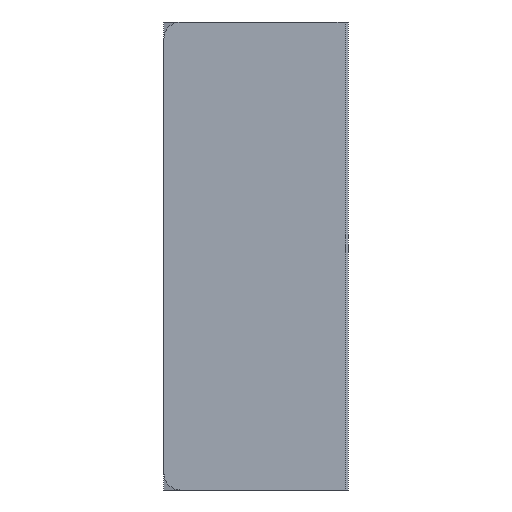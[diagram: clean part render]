
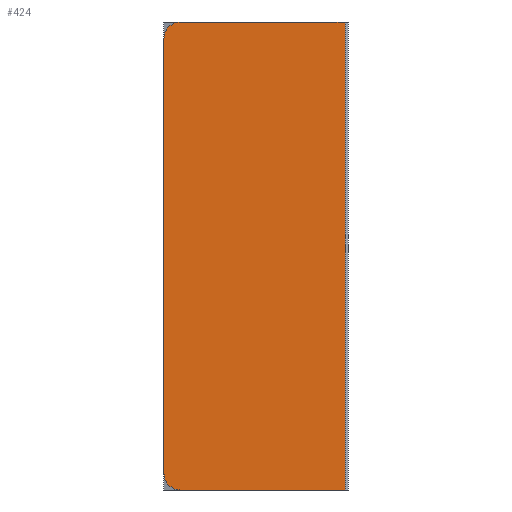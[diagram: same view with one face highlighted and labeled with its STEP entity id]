
A CAD part, front view. The second image highlights one B-rep face of the part: STEP entity #424.
In plain terms, the highlighted planar face has unit normal (0, -1, 0).
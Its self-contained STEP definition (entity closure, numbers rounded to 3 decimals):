
#8 = LINE ( 'NONE', #1540, #980 ) ;
#10 = VERTEX_POINT ( 'NONE', #602 ) ;
#33 = CARTESIAN_POINT ( 'NONE',  ( -29., 0., -71. ) ) ;
#34 = EDGE_CURVE ( 'NONE', #641, #1206, #735, .T. ) ;
#65 = ORIENTED_EDGE ( 'NONE', *, *, #34, .T. ) ;
#76 = VECTOR ( 'NONE', #495, 1000. ) ;
#106 = LINE ( 'NONE', #644, #386 ) ;
#124 = CARTESIAN_POINT ( 'NONE',  ( -24., 0., 71. ) ) ;
#219 = EDGE_CURVE ( 'NONE', #728, #1206, #8, .T. ) ;
#231 = CARTESIAN_POINT ( 'NONE',  ( -24., 0., -66. ) ) ;
#270 = VERTEX_POINT ( 'NONE', #1532 ) ;
#302 = DIRECTION ( 'NONE',  ( 0., -1., 0. ) ) ;
#354 = DIRECTION ( 'NONE',  ( 0., 0., -1. ) ) ;
#386 = VECTOR ( 'NONE', #942, 1000. ) ;
#389 = DIRECTION ( 'NONE',  ( 0., 0., 1. ) ) ;
#393 = CIRCLE ( 'NONE', #1428, 5. ) ;
#424 = ADVANCED_FACE ( 'NONE', ( #950 ), #1271, .T. ) ;
#469 = ORIENTED_EDGE ( 'NONE', *, *, #219, .F. ) ;
#495 = DIRECTION ( 'NONE',  ( 1., 0., 0. ) ) ;
#516 = CARTESIAN_POINT ( 'NONE',  ( 25.941, 0., -71. ) ) ;
#534 = DIRECTION ( 'NONE',  ( 0., 0., -1. ) ) ;
#581 = CARTESIAN_POINT ( 'NONE',  ( -29., 0., 66. ) ) ;
#602 = CARTESIAN_POINT ( 'NONE',  ( -29., 0., -66. ) ) ;
#611 = EDGE_CURVE ( 'NONE', #10, #1046, #106, .T. ) ;
#641 = VERTEX_POINT ( 'NONE', #516 ) ;
#644 = CARTESIAN_POINT ( 'NONE',  ( -29., 0., -71. ) ) ;
#728 = VERTEX_POINT ( 'NONE', #124 ) ;
#735 = LINE ( 'NONE', #1278, #1033 ) ;
#773 = CARTESIAN_POINT ( 'NONE',  ( -29., 0., -71. ) ) ;
#799 = AXIS2_PLACEMENT_3D ( 'NONE', #231, #1198, #534 ) ;
#845 = ORIENTED_EDGE ( 'NONE', *, *, #1091, .T. ) ;
#867 = ORIENTED_EDGE ( 'NONE', *, *, #1562, .T. ) ;
#901 = AXIS2_PLACEMENT_3D ( 'NONE', #33, #302, #1448 ) ;
#912 = CIRCLE ( 'NONE', #799, 5. ) ;
#942 = DIRECTION ( 'NONE',  ( 0., 0., 1. ) ) ;
#950 = FACE_OUTER_BOUND ( 'NONE', #1478, .T. ) ;
#980 = VECTOR ( 'NONE', #1256, 1000. ) ;
#1010 = DIRECTION ( 'NONE',  ( 0., -1., 0. ) ) ;
#1033 = VECTOR ( 'NONE', #389, 1000. ) ;
#1046 = VERTEX_POINT ( 'NONE', #581 ) ;
#1091 = EDGE_CURVE ( 'NONE', #270, #641, #1437, .T. ) ;
#1198 = DIRECTION ( 'NONE',  ( 0., -1., 0. ) ) ;
#1206 = VERTEX_POINT ( 'NONE', #1421 ) ;
#1256 = DIRECTION ( 'NONE',  ( 1., 0., 0. ) ) ;
#1271 = PLANE ( 'NONE',  #901 ) ;
#1278 = CARTESIAN_POINT ( 'NONE',  ( 25.941, 0., -71. ) ) ;
#1421 = CARTESIAN_POINT ( 'NONE',  ( 25.941, 0., 71. ) ) ;
#1428 = AXIS2_PLACEMENT_3D ( 'NONE', #1573, #1010, #354 ) ;
#1437 = LINE ( 'NONE', #773, #76 ) ;
#1448 = DIRECTION ( 'NONE',  ( 0., 0., -1. ) ) ;
#1478 = EDGE_LOOP ( 'NONE', ( #845, #65, #469, #867, #1663, #1507 ) ) ;
#1507 = ORIENTED_EDGE ( 'NONE', *, *, #1639, .T. ) ;
#1532 = CARTESIAN_POINT ( 'NONE',  ( -24., 0., -71. ) ) ;
#1540 = CARTESIAN_POINT ( 'NONE',  ( -29., 0., 71. ) ) ;
#1562 = EDGE_CURVE ( 'NONE', #728, #1046, #393, .T. ) ;
#1573 = CARTESIAN_POINT ( 'NONE',  ( -24., 0., 66. ) ) ;
#1639 = EDGE_CURVE ( 'NONE', #10, #270, #912, .T. ) ;
#1663 = ORIENTED_EDGE ( 'NONE', *, *, #611, .F. ) ;
